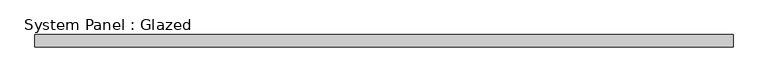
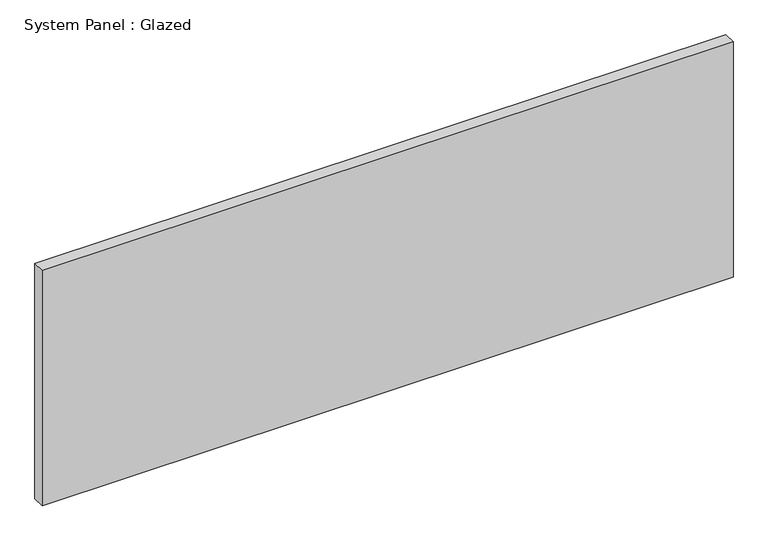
"""IFC4 building model written with IfcOpenShell, lengths in millimetres: plate geometry, System Panel : Glazed."""

import ifcopenshell
import ifcopenshell.guid

model = None  # the IFC model being written
_history = None  # IfcOwnerHistory: only IFC2X3 demands one
_inside = {}  # id of a spatial element -> (the spatial element, [elements in it])
_under = {}  # id of a project, library or spatial element -> (it, [spatial elements below it])
_declared = {}  # id of a project -> (the project, [libraries it declares])
_typed = {}  # id of a type object -> (the type object, [elements of that type])
_made_of = {}  # id of a material, layer set ... -> (it, [elements and type objects made of it])


def new_model(schema):
    """Start an empty IFC model of exactly this schema.

    Asked for "IFC4X3", IfcOpenShell would pick the latest addendum, in which some entities
    have other attributes; the version numbers below select the first issue.
    IFC2X3 requires an IfcOwnerHistory on every rooted entity: one is made here for all.
    """
    global model, _history
    if schema == "IFC4X3":
        model = ifcopenshell.file(schema_version=(4, 3, 0, 0))
    else:
        model = ifcopenshell.file(schema=schema)
    _inside.clear()
    _under.clear()
    _declared.clear()
    _typed.clear()
    _made_of.clear()
    _history = None
    if model.schema == "IFC2X3":
        org = make("IfcOrganization", Name="unknown")
        user = make(
            "IfcPersonAndOrganization",
            ThePerson=make("IfcPerson", FamilyName="unknown"),
            TheOrganization=org,
        )
        app = make(
            "IfcApplication",
            ApplicationDeveloper=org,
            Version="unknown",
            ApplicationFullName="unknown",
            ApplicationIdentifier="unknown",
        )
        _history = make(
            "IfcOwnerHistory",
            OwningUser=user,
            OwningApplication=app,
            ChangeAction="ADDED",
            CreationDate=0,
        )
    return model


def make(cls, **values):
    """One entity of the class cls with the attributes given. An attribute that is None is left unset."""
    return model.create_entity(
        cls, **{name: value for name, value in values.items() if value is not None}
    )


def rooted(cls, **values):
    """An entity with a GlobalId (a new one), such as an element, a storey or a relation."""
    return make(cls, GlobalId=ifcopenshell.guid.new(), OwnerHistory=_history, **values)


def si_unit(unit_type, name, prefix=None):
    """IfcSIUnit, for example si_unit("LENGTHUNIT", "METRE", prefix="MILLI")."""
    return make("IfcSIUnit", UnitType=unit_type, Prefix=prefix, Name=name)


def assignment(units):
    """IfcUnitAssignment: the units of a project."""
    return None if units is None else make("IfcUnitAssignment", Units=units)


def point(xyz):
    """IfcCartesianPoint."""
    return None if xyz is None else make("IfcCartesianPoint", Coordinates=xyz)


def direction(xyz):
    """IfcDirection."""
    return None if xyz is None else make("IfcDirection", DirectionRatios=xyz)


def frame(location, z_axis=None, x_axis=None):
    """IfcAxis2Placement3D, a coordinate frame: its origin and axes. An axis left out is left unset."""
    return make(
        "IfcAxis2Placement3D",
        Location=point(location),
        Axis=direction(z_axis),
        RefDirection=direction(x_axis),
    )


def origin():
    """The frame at (0, 0, 0) with its axes left unset."""
    return frame((0.0, 0.0, 0.0))


def origin_with_axes():
    """The frame at (0, 0, 0) with the z axis (0, 0, 1) and the x axis (1, 0, 0) written out."""
    return frame((0.0, 0.0, 0.0), z_axis=(0.0, 0.0, 1.0), x_axis=(1.0, 0.0, 0.0))


def place(relative_to, where):
    """IfcLocalPlacement: puts the frame where relative to a parent placement (None: the world)."""
    return make(
        "IfcLocalPlacement", PlacementRelTo=relative_to, RelativePlacement=where
    )


def context(
    kind, dimensions, precision=None, world=None, true_north=None, identifier=None
):
    """IfcGeometricRepresentationContext, for example the 3D "Model" context."""
    return make(
        "IfcGeometricRepresentationContext",
        ContextIdentifier=identifier,
        ContextType=kind,
        CoordinateSpaceDimension=dimensions,
        Precision=precision,
        WorldCoordinateSystem=world,
        TrueNorth=true_north,
    )


def project(units=None, contexts=None):
    """IfcProject with its units and contexts."""
    return rooted(
        "IfcProject",
        Name="project",
        RepresentationContexts=contexts,
        UnitsInContext=assignment(units),
    )


def spatial(cls, under=None, at=None, **own):
    """A site, building, storey or space (cls), placed at a placement, below another one or the project."""
    s = rooted(cls, ObjectPlacement=at, **own)
    if under is not None:
        _under.setdefault(under.id(), (under, []))[1].append(s)
    return s


def polyline(points):
    """IfcPolyline through the points."""
    return make("IfcPolyline", Points=[point(p) for p in points])


def outline(outer, holes=None, kind="AREA"):
    """IfcArbitraryClosedProfileDef: a profile drawn as a closed curve; with holes, ...WithVoids."""
    if holes is None:
        return make("IfcArbitraryClosedProfileDef", ProfileType=kind, OuterCurve=outer)
    return make(
        "IfcArbitraryProfileDefWithVoids",
        ProfileType=kind,
        OuterCurve=outer,
        InnerCurves=holes,
    )


def extrude(swept, where, along, depth):
    """IfcExtrudedAreaSolid: the profile swept, set in the frame where, extruded along a direction by depth."""
    return make(
        "IfcExtrudedAreaSolid",
        SweptArea=swept,
        Position=where,
        ExtrudedDirection=direction(along),
        Depth=depth,
    )


def shape(context_of_items, identifier, shape_type, items):
    """IfcShapeRepresentation: the items that make up one representation, for example the "Body"."""
    return make(
        "IfcShapeRepresentation",
        ContextOfItems=context_of_items,
        RepresentationIdentifier=identifier,
        RepresentationType=shape_type,
        Items=items,
    )


def source(mapping_origin, context_of_items, identifier, shape_type, items):
    """IfcRepresentationMap: a shape defined once, which mapped items show again and again."""
    return make(
        "IfcRepresentationMap",
        MappingOrigin=mapping_origin,
        MappedRepresentation=shape(context_of_items, identifier, shape_type, items),
    )


def transform(
    local_origin,
    x_axis=None,
    y_axis=None,
    z_axis=None,
    scale=None,
    scale2=None,
    scale3=None,
    uniform=True,
):
    """IfcCartesianTransformationOperator3D, or its non-uniform kind. x_axis, y_axis, z_axis: its Axis1, 2, 3."""
    if uniform:
        return make(
            "IfcCartesianTransformationOperator3D",
            Axis1=direction(x_axis),
            Axis2=direction(y_axis),
            LocalOrigin=point(local_origin),
            Scale=scale,
            Axis3=direction(z_axis),
        )
    return make(
        "IfcCartesianTransformationOperator3DnonUniform",
        Axis1=direction(x_axis),
        Axis2=direction(y_axis),
        LocalOrigin=point(local_origin),
        Scale=scale,
        Axis3=direction(z_axis),
        Scale2=scale2,
        Scale3=scale3,
    )


def mapped(mapping_source, mapping_target):
    """IfcMappedItem: shows the shape of a source again, moved by a transform."""
    return make(
        "IfcMappedItem", MappingSource=mapping_source, MappingTarget=mapping_target
    )


def made_of(thing, what):
    """Note that an element or type object is made of a material, layer set ...; save() writes the relation."""
    if what is not None:
        _made_of.setdefault(what.id(), (what, []))[1].append(thing)
    return thing


def element(
    cls,
    number,
    at=None,
    inside=None,
    cuts=None,
    type_object=None,
    material=None,
    context=None,
    identifier="Body",
    shape_type=None,
    held_by="IfcProductDefinitionShape",
    body=None,
    shapes=None,
    **own,
):
    """One element of the class cls, such as IfcWall. Its Tag is "e" and its number.

    at: its placement. inside: the storey or other place that contains it. cuts: it is an
    opening in that element (IfcRelVoidsElement). A single representation is given by context,
    identifier, shape_type and body (its items); several are given by shapes. held_by: the class
    of the entity that holds the representations. save() writes the other relations.
    """
    e = rooted(cls, Tag="e%d" % number, ObjectPlacement=at, **own)
    if body is not None:
        shapes = [shape(context, identifier, shape_type, body)]
    if shapes is not None:
        e.Representation = make(held_by, Representations=shapes)
    if inside is not None:
        _inside.setdefault(inside.id(), (inside, []))[1].append(e)
    if cuts is not None:
        rooted(
            "IfcRelVoidsElement", RelatingBuildingElement=cuts, RelatedOpeningElement=e
        )
    if type_object is not None:
        _typed.setdefault(type_object.id(), (type_object, []))[1].append(e)
    return made_of(e, material)


def aggregate(whole, parts):
    """IfcRelAggregates: a whole, such as a stair, and the parts it consists of."""
    return rooted("IfcRelAggregates", RelatingObject=whole, RelatedObjects=parts)


def save(model, path):
    """Write the relations noted so far, then the file.

    IfcRelAggregates (storeys below a building ...), IfcRelContainedInSpatialStructure (elements
    in a storey), IfcRelDefinesByType, IfcRelAssociatesMaterial and IfcRelDeclares: one each for
    every whole, place, type object, material and project.
    """
    for whole, parts in _under.values():
        aggregate(whole, parts)
    for where, things in _inside.values():
        rooted(
            "IfcRelContainedInSpatialStructure",
            RelatedElements=things,
            RelatingStructure=where,
        )
    for kind, things in _typed.values():
        rooted("IfcRelDefinesByType", RelatedObjects=things, RelatingType=kind)
    for what, things in _made_of.values():
        rooted("IfcRelAssociatesMaterial", RelatedObjects=things, RelatingMaterial=what)
    for by, libraries in _declared.values():
        rooted("IfcRelDeclares", RelatingContext=by, RelatedDefinitions=libraries)
    model.write(path)


def system_panel_glazed_47a57bc4(model_context):
    return source(origin(), model_context, "Body", "SweptSolid", [
        extrude(outline(polyline([(714.3750001, -44.45), (-714.3750001, -44.45), (-714.3750001, -19.05), (714.3750001, -19.05), (714.3750001, -44.45)])), origin_with_axes(), (0.0, 0.0, 1.0), 514.35),
    ])


if __name__ == "__main__":
    model = new_model("IFC4")
    model_context = context("Model", 3, world=origin())
    ifc_project = project(units=[si_unit("LENGTHUNIT", "METRE", prefix="MILLI")], contexts=[model_context])
    site = spatial("IfcSite", under=ifc_project)
    building = spatial("IfcBuilding", under=site)
    placement = place(None, origin())
    system_panel_glazed_shape = system_panel_glazed_47a57bc4(model_context)
    element("IfcPlate", 1, ObjectType="System Panel : Glazed", at=placement, inside=building, context=model_context, shape_type="MappedRepresentation", body=[
        mapped(system_panel_glazed_shape, transform((0.0, 0.0, 0.0), x_axis=(1.0, 0.0, 0.0), y_axis=(0.0, 1.0, 0.0), z_axis=(0.0, 0.0, 1.0))),
    ])
    save(model, "model.ifc")
